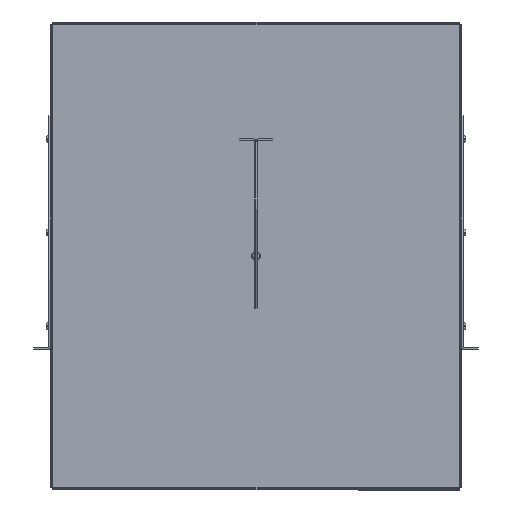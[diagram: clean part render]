
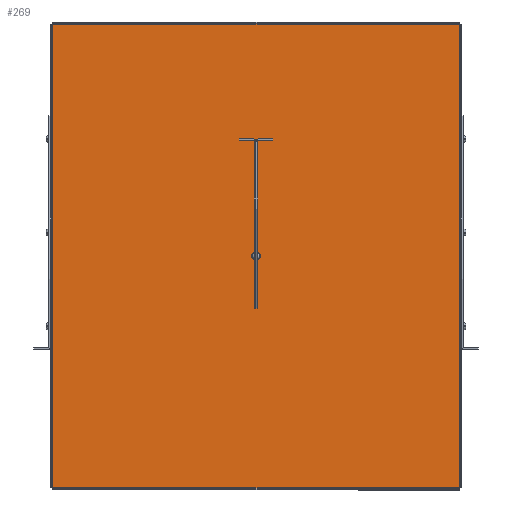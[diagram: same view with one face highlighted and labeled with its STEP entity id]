
A CAD part, top view. The second image highlights one B-rep face of the part: STEP entity #269.
In plain terms, the highlighted planar face has unit normal (0, 0, 1).
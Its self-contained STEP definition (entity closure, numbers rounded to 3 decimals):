
#269 = ADVANCED_FACE( '', ( #582 ), #583, .T. );
#582 = FACE_OUTER_BOUND( '', #941, .T. );
#583 = PLANE( '', #942 );
#941 = EDGE_LOOP( '', ( #1620, #1621, #1622, #1623 ) );
#942 = AXIS2_PLACEMENT_3D( '', #1624, #1625, #1626 );
#1620 = ORIENTED_EDGE( '', *, *, #1953, .F. );
#1621 = ORIENTED_EDGE( '', *, *, #1939, .F. );
#1622 = ORIENTED_EDGE( '', *, *, #1890, .F. );
#1623 = ORIENTED_EDGE( '', *, *, #1878, .F. );
#1624 = CARTESIAN_POINT( '', ( -223.037, -254., 1.448 ) );
#1625 = DIRECTION( '', ( 0., 0., 1. ) );
#1626 = DIRECTION( '', ( 1., 0., 0. ) );
#1878 = EDGE_CURVE( '', #2310, #2312, #2313, .T. );
#1890 = EDGE_CURVE( '', #2312, #2331, #2332, .T. );
#1939 = EDGE_CURVE( '', #2331, #2401, #2404, .T. );
#1953 = EDGE_CURVE( '', #2401, #2310, #2423, .T. );
#2310 = VERTEX_POINT( '', #3199 );
#2312 = VERTEX_POINT( '', #3201 );
#2313 = LINE( '', #3202, #3203 );
#2331 = VERTEX_POINT( '', #3225 );
#2332 = LINE( '', #3226, #3227 );
#2401 = VERTEX_POINT( '', #3378 );
#2404 = LINE( '', #3381, #3382 );
#2423 = LINE( '', #3406, #3407 );
#3199 = CARTESIAN_POINT( '', ( -220.853, 251.816, 1.448 ) );
#3201 = CARTESIAN_POINT( '', ( 220.853, 251.816, 1.448 ) );
#3202 = CARTESIAN_POINT( '', ( -223.037, 251.816, 1.448 ) );
#3203 = VECTOR( '', #3794, 1000. );
#3225 = CARTESIAN_POINT( '', ( 220.853, -251.816, 1.448 ) );
#3226 = CARTESIAN_POINT( '', ( 220.853, 251.816, 1.448 ) );
#3227 = VECTOR( '', #3811, 1000. );
#3378 = CARTESIAN_POINT( '', ( -220.853, -251.816, 1.448 ) );
#3381 = CARTESIAN_POINT( '', ( 223.037, -251.816, 1.448 ) );
#3382 = VECTOR( '', #3872, 1000. );
#3406 = CARTESIAN_POINT( '', ( -220.853, -251.816, 1.448 ) );
#3407 = VECTOR( '', #3887, 1000. );
#3794 = DIRECTION( '', ( 1., 0., 0. ) );
#3811 = DIRECTION( '', ( 0., -1., 0. ) );
#3872 = DIRECTION( '', ( -1., 0., 0. ) );
#3887 = DIRECTION( '', ( 0., 1., 0. ) );
